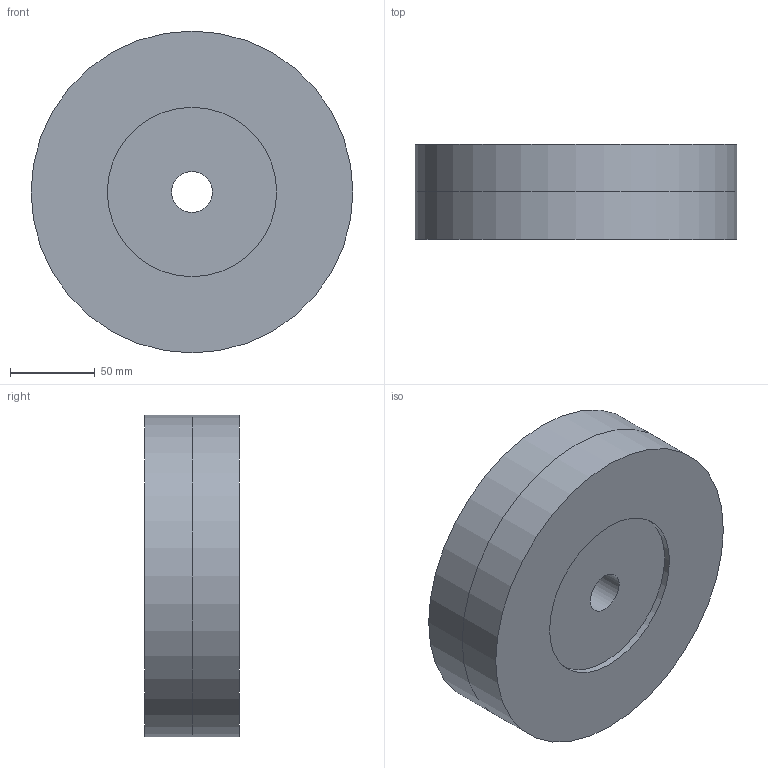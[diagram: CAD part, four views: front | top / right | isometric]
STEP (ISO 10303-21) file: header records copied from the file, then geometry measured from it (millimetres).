
FILE_DESCRIPTION(('Open CASCADE Model'),'2;1');
FILE_NAME('Open CASCADE Shape Model','2026-09-19T16:36:14',('Author'),( 'Open CASCADE'),'Open CASCADE STEP processor 7.8','Open CASCADE 7.8' ,'Unknown');
FILE_SCHEMA(('AUTOMOTIVE_DESIGN { 1 0 10303 214 1 1 1 1 }'));
Length unit declared in the file: millimetre
Products named in the file (1): Open CASCADE STEP translator 7.8 3
Bounding box: 190 x 56 x 190 mm (x, y, z)
Volume: 1503214.4 mm3; surface area: 95359.9 mm2
Topology: 1 solids, 1 shells, 10 faces, 16 edges, 10 vertices
Faces by surface type: cylinder 6, plane 4
Full cylindrical faces by diameter (mm): 24 x2, 100 x2, 190 x2
Entity records: 457 total; most frequent: CARTESIAN_POINT 77, DIRECTION 77, ORIENTED_EDGE 32, PCURVE 32, DEFINITIONAL_REPRESENTATION 32, LINE 28, VECTOR 28, AXIS2_PLACEMENT_3D 21
